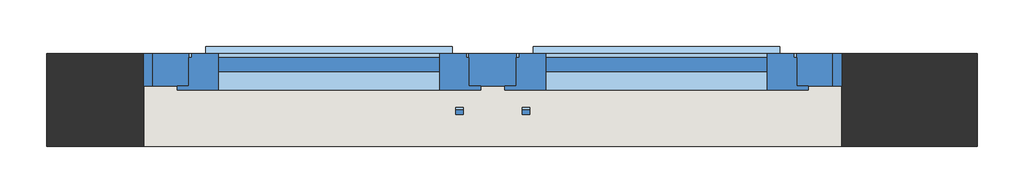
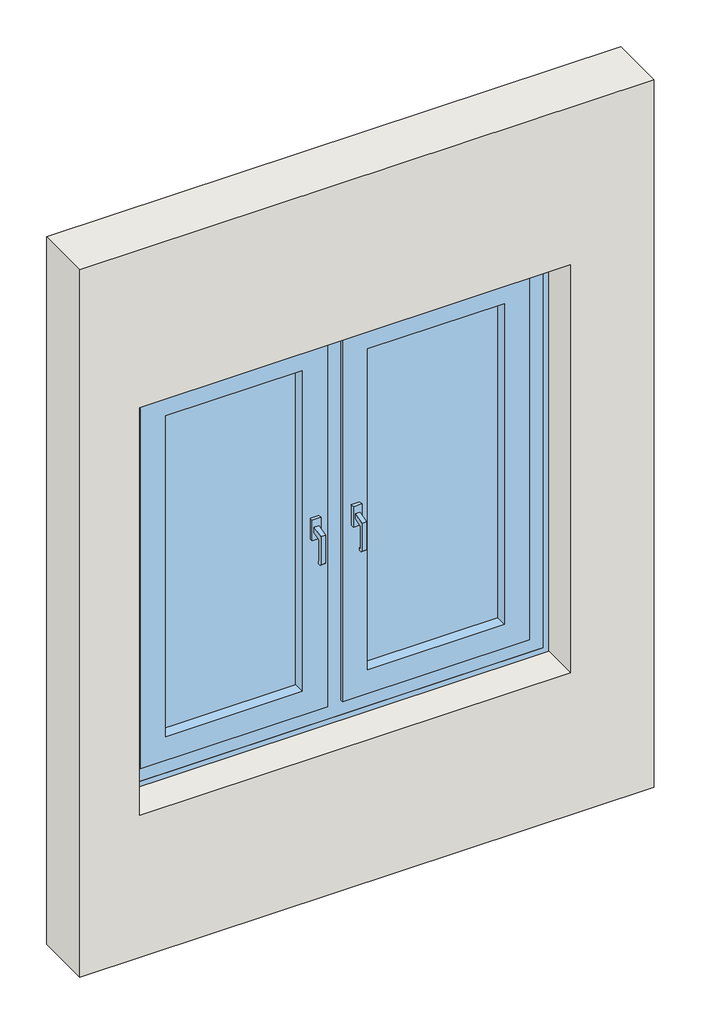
# One storey: 3 windows, 1 wall.
"""IFC4 building model written with IfcOpenShell, lengths in millimetres."""

from ifc_helpers import new_model, si_unit, frame, origin, place, context, project, spatial, polyline, outline, extrude, transform, mapped, element, save
from components import window_b4f2b5aa, window_0f3135ca

model = new_model("IFC4")

# Units and contexts
model_context = context("Model", 3, world=origin())
ifc_project = project(units=[si_unit("LENGTHUNIT", "METRE", prefix="MILLI")], contexts=[model_context])

# Site, building, storey
site = spatial("IfcSite", under=ifc_project)
building = spatial("IfcBuilding", under=site)
storey = spatial("IfcBuildingStorey", under=building, Name="Этаж 01", Elevation=0.0)

# Wall
placement = place(None, origin())
element("IfcWall", 1, ObjectType="Типовой - 200мм", at=placement, inside=storey, context=model_context, shape_type="SweptSolid", body=[
    extrude(outline(polyline([(0.0, 0.0), (0.0, 2000.0), (2603.1870462, 2000.0), (2603.1870462, 0.0), (0.0, 0.0)]), holes=[polyline([(2023.3975118, 208.5688219), (2023.3975118, 1708.5688219), (523.3975118, 1708.5688219), (523.3975118, 208.5688219), (2023.3975118, 208.5688219)])]), frame((0.0, -200.0, 0.0), z_axis=(0.0, 1.0, 0.0), x_axis=(0.0, 0.0, 1.0)), (0.0, 0.0, 1.0), 200.0),
])

# Windows
window_shape = window_b4f2b5aa(model_context)
element("IfcWindow", 2, ObjectType="Окна.Alumark_фурнитура_поворотная_штульп : Окна.Alumark_фурнитура_поворотная_штульп", at=placement, inside=storey, context=model_context, shape_type="MappedRepresentation", body=[
    mapped(window_shape, transform((887.0688219, -79.0, 1273.3975118), x_axis=(1.0, 0.0, 0.0), y_axis=(0.0, 0.0, 1.0), z_axis=(0.0, -1.0, 0.0))),
])
element("IfcWindow", 3, ObjectType="Окна.Alumark_фурнитура_поворотно-сдвижная : Окна.Alumark_фурнитура_поворотно-сдвижная", at=placement, inside=storey, context=model_context, shape_type="MappedRepresentation", body=[
    mapped(window_shape, transform((1030.0688219, -79.0, 1273.3975118), x_axis=(1.0, 0.0, 0.0), y_axis=(0.0, 0.0, 1.0), z_axis=(0.0, -1.0, 0.0))),
])
window_2_shape = window_0f3135ca(model_context)
element("IfcWindow", 4, ObjectType="Окно.Alumark_двустворчатое_S70 : 1460х1460 (правое-откидное)", at=placement, inside=storey, context=model_context, shape_type="MappedRepresentation", body=[
    mapped(window_2_shape, transform((958.5688219, -100.0, -376.6024882), x_axis=(1.0, 0.0, 0.0), y_axis=(0.0, 1.0, 0.0), z_axis=(0.0, 0.0, 1.0))),
])

save(model, "model.ifc")
